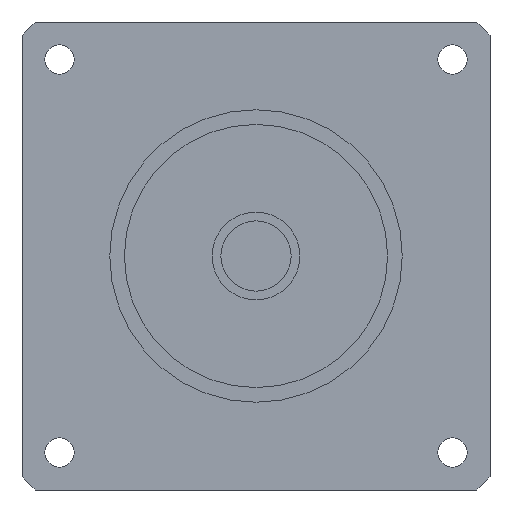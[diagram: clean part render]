
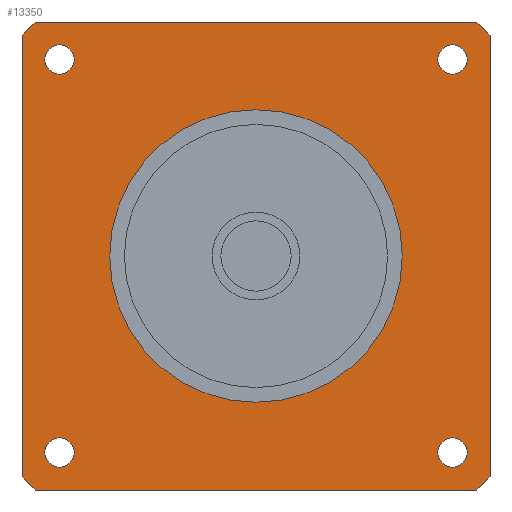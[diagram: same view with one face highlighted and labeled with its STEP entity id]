
A CAD part, left-side view. The second image highlights one B-rep face of the part: STEP entity #13350.
In plain terms, the highlighted planar face has unit normal (-1, 0, 0) as drawn and (0, 0, -1) by its records, which use the part's own axes.
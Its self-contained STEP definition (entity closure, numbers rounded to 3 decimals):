
#8640=CARTESIAN_POINT('',(-40.,-37.749,-42.2));
#8650=VERTEX_POINT('',#8640);
#8700=CARTESIAN_POINT('',(-40.,40.,-42.2));
#8710=DIRECTION('',(0.,-1.,0.));
#8720=VECTOR('',#8710,1000.);
#8730=LINE('',#8700,#8720);
#8740=CARTESIAN_POINT('',(-40.,37.749,-42.2));
#8750=VERTEX_POINT('',#8740);
#8760=EDGE_CURVE('',#8750,#8650,#8730,.T.);
#9040=CARTESIAN_POINT('',(-37.749,40.,-42.2));
#9050=VERTEX_POINT('',#9040);
#9180=CARTESIAN_POINT('',(0.,0.,
-42.2));
#9190=DIRECTION('',(0.,0.,1.));
#9200=DIRECTION('',(0.,1.,0.));
#9210=AXIS2_PLACEMENT_3D('',#9180,#9190,#9200);
#9220=CIRCLE('',#9210,55.);
#9230=EDGE_CURVE('',#9050,#8750,#9220,.T.);
#11890=CARTESIAN_POINT('',(33.588,-31.088,-42.2));
#11900=VERTEX_POINT('',#11890);
#11980=CARTESIAN_POINT('',(33.588,-36.088,-42.2));
#11990=VERTEX_POINT('',#11980);
#12020=CARTESIAN_POINT('',(33.588,-33.588,-42.2));
#12030=DIRECTION('',(0.,0.,1.));
#12040=DIRECTION('',(0.,1.,0.));
#12050=AXIS2_PLACEMENT_3D('',#12020,#12030,#12040);
#12060=CIRCLE('',#12050,2.5);
#12070=EDGE_CURVE('',#11990,#11900,#12060,.T.);
#12120=CARTESIAN_POINT('',(40.,-40.,-42.2));
#12130=DIRECTION('',(0.,0.,1.));
#12140=DIRECTION('',(0.,1.,0.));
#12150=AXIS2_PLACEMENT_3D('',#12120,#12130,#12140);
#12160=PLANE('',#12150);
#12170=CARTESIAN_POINT('',(-33.588,-33.588,-42.2));
#12180=DIRECTION('',(0.,0.,1.));
#12190=DIRECTION('',(0.,1.,0.));
#12200=AXIS2_PLACEMENT_3D('',#12170,#12180,#12190);
#12210=CIRCLE('',#12200,2.5);
#12220=CARTESIAN_POINT('',(-33.588,-31.088,-42.2));
#12230=VERTEX_POINT('',#12220);
#12240=CARTESIAN_POINT('',(-33.588,-36.088,-42.2));
#12250=VERTEX_POINT('',#12240);
#12260=EDGE_CURVE('',#12230,#12250,#12210,.T.);
#12270=ORIENTED_EDGE('',*,*,#12260,.T.);
#12280=EDGE_CURVE('',#12250,#12230,#12210,.T.);
#12290=ORIENTED_EDGE('',*,*,#12280,.T.);
#12300=EDGE_LOOP('',(#12290,#12270));
#12310=FACE_BOUND('',#12300,.T.);
#12320=CARTESIAN_POINT('',(33.588,33.588,-42.2));
#12330=DIRECTION('',(0.,0.,1.));
#12340=DIRECTION('',(0.,1.,0.));
#12350=AXIS2_PLACEMENT_3D('',#12320,#12330,#12340);
#12360=CIRCLE('',#12350,2.5);
#12370=CARTESIAN_POINT('',(33.588,36.088,-42.2));
#12380=VERTEX_POINT('',#12370);
#12390=CARTESIAN_POINT('',(33.588,31.088,-42.2));
#12400=VERTEX_POINT('',#12390);
#12410=EDGE_CURVE('',#12380,#12400,#12360,.T.);
#12420=ORIENTED_EDGE('',*,*,#12410,.T.);
#12430=EDGE_CURVE('',#12400,#12380,#12360,.T.);
#12440=ORIENTED_EDGE('',*,*,#12430,.T.);
#12450=EDGE_LOOP('',(#12440,#12420));
#12460=FACE_BOUND('',#12450,.T.);
#12470=CARTESIAN_POINT('',(-33.588,33.588,-42.2));
#12480=DIRECTION('',(0.,0.,1.));
#12490=DIRECTION('',(0.,1.,0.));
#12500=AXIS2_PLACEMENT_3D('',#12470,#12480,#12490);
#12510=CIRCLE('',#12500,2.5);
#12520=CARTESIAN_POINT('',(-33.588,36.088,-42.2));
#12530=VERTEX_POINT('',#12520);
#12540=CARTESIAN_POINT('',(-33.588,31.088,-42.2));
#12550=VERTEX_POINT('',#12540);
#12560=EDGE_CURVE('',#12530,#12550,#12510,.T.);
#12570=ORIENTED_EDGE('',*,*,#12560,.T.);
#12580=EDGE_CURVE('',#12550,#12530,#12510,.T.);
#12590=ORIENTED_EDGE('',*,*,#12580,.T.);
#12600=EDGE_LOOP('',(#12590,#12570));
#12610=FACE_BOUND('',#12600,.T.);
#12620=CARTESIAN_POINT('',(0.,0.,
-42.2));
#12630=DIRECTION('',(0.,0.,1.));
#12640=DIRECTION('',(0.,-1.,0.));
#12650=AXIS2_PLACEMENT_3D('',#12620,#12630,#12640);
#12660=CIRCLE('',#12650,25.);
#12670=CARTESIAN_POINT('',(0.,-25.,-42.2));
#12680=VERTEX_POINT('',#12670);
#12690=CARTESIAN_POINT('',(0.,25.,-42.2));
#12700=VERTEX_POINT('',#12690);
#12710=EDGE_CURVE('',#12680,#12700,#12660,.T.);
#12720=ORIENTED_EDGE('',*,*,#12710,.T.);
#12730=EDGE_CURVE('',#12700,#12680,#12660,.T.);
#12740=ORIENTED_EDGE('',*,*,#12730,.T.);
#12750=EDGE_LOOP('',(#12740,#12720));
#12760=FACE_BOUND('',#12750,.T.);
#12770=EDGE_CURVE('',#11900,#11990,#12060,.T.);
#12780=ORIENTED_EDGE('',*,*,#12770,.T.);
#12790=ORIENTED_EDGE('',*,*,#12070,.T.);
#12800=EDGE_LOOP('',(#12790,#12780));
#12810=FACE_BOUND('',#12800,.T.);
#12820=ORIENTED_EDGE('',*,*,#9230,.F.);
#12830=ORIENTED_EDGE('',*,*,#8760,.F.);
#12840=CARTESIAN_POINT('',(0.,0.,
-42.2));
#12850=DIRECTION('',(0.,0.,1.));
#12860=DIRECTION('',(0.,1.,0.));
#12870=AXIS2_PLACEMENT_3D('',#12840,#12850,#12860);
#12880=CIRCLE('',#12870,55.);
#12890=CARTESIAN_POINT('',(-37.749,-40.,-42.2));
#12900=VERTEX_POINT('',#12890);
#12910=EDGE_CURVE('',#8650,#12900,#12880,.T.);
#12920=ORIENTED_EDGE('',*,*,#12910,.F.);
#12930=CARTESIAN_POINT('',(-40.,-40.,-42.2));
#12940=DIRECTION('',(1.,0.,0.));
#12950=VECTOR('',#12940,1000.);
#12960=LINE('',#12930,#12950);
#12970=CARTESIAN_POINT('',(37.749,-40.,-42.2));
#12980=VERTEX_POINT('',#12970);
#12990=EDGE_CURVE('',#12900,#12980,#12960,.T.);
#13000=ORIENTED_EDGE('',*,*,#12990,.F.);
#13010=CARTESIAN_POINT('',(0.,0.,
-42.2));
#13020=DIRECTION('',(0.,0.,1.));
#13030=DIRECTION('',(0.,1.,0.));
#13040=AXIS2_PLACEMENT_3D('',#13010,#13020,#13030);
#13050=CIRCLE('',#13040,55.);
#13060=CARTESIAN_POINT('',(40.,-37.749,-42.2));
#13070=VERTEX_POINT('',#13060);
#13080=EDGE_CURVE('',#12980,#13070,#13050,.T.);
#13090=ORIENTED_EDGE('',*,*,#13080,.F.);
#13100=CARTESIAN_POINT('',(40.,-40.,-42.2));
#13110=DIRECTION('',(0.,1.,0.));
#13120=VECTOR('',#13110,1000.);
#13130=LINE('',#13100,#13120);
#13140=CARTESIAN_POINT('',(40.,37.749,-42.2));
#13150=VERTEX_POINT('',#13140);
#13160=EDGE_CURVE('',#13070,#13150,#13130,.T.);
#13170=ORIENTED_EDGE('',*,*,#13160,.F.);
#13180=CARTESIAN_POINT('',(0.,0.,
-42.2));
#13190=DIRECTION('',(0.,0.,1.));
#13200=DIRECTION('',(0.,1.,0.));
#13210=AXIS2_PLACEMENT_3D('',#13180,#13190,#13200);
#13220=CIRCLE('',#13210,55.);
#13230=CARTESIAN_POINT('',(37.749,40.,-42.2));
#13240=VERTEX_POINT('',#13230);
#13250=EDGE_CURVE('',#13150,#13240,#13220,.T.);
#13260=ORIENTED_EDGE('',*,*,#13250,.F.);
#13270=CARTESIAN_POINT('',(40.,40.,-42.2));
#13280=DIRECTION('',(-1.,0.,0.));
#13290=VECTOR('',#13280,1000.);
#13300=LINE('',#13270,#13290);
#13310=EDGE_CURVE('',#13240,#9050,#13300,.T.);
#13320=ORIENTED_EDGE('',*,*,#13310,.F.);
#13330=EDGE_LOOP('',(#13320,#13260,#13170,#13090,#13000,#12920,#12830,
#12820));
#13340=FACE_OUTER_BOUND('',#13330,.T.);
#13350=ADVANCED_FACE('',(#12310,#12460,#12610,#12760,#12810,#13340),
#12160,.F.);
